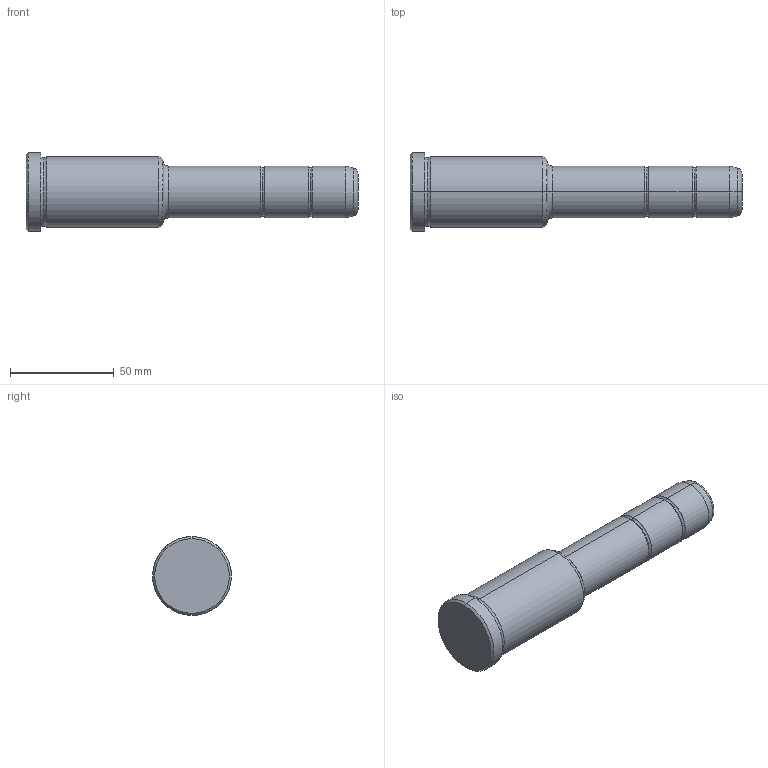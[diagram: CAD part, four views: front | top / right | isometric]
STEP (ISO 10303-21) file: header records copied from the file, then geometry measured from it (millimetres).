
FILE_DESCRIPTION(('CATIA V5 STEP Exchange'),'2;1');
FILE_NAME('C:\Users\Utente\Desktop\IO LAVORO\3D X SITO CF\X SITO\PLASTICA\351\351-25X66X160.stp','2021-09-07T10:08:16+00:00',('none'),('none'),'CATIA Version 5 Release 20 GA (IN-10)','CATIA V5 STEP AP203','none');
FILE_SCHEMA(('CONFIG_CONTROL_DESIGN'));
Length unit declared in the file: millimetre
Products named in the file (1): 351-25X66X160
Bounding box: 160 x 38 x 38 mm (x, y, z)
Volume: 106859.2 mm3; surface area: 16478.7 mm2
Topology: 1 solids, 1 shells, 36 faces, 102 edges, 70 vertices
Faces by surface type: torus 16, cylinder 10, cone 6, plane 4
Entity records: 1292 total; most frequent: CARTESIAN_POINT 321, ORIENTED_EDGE 204, DIRECTION 166, AXIS2_PLACEMENT_3D 115, EDGE_CURVE 102, CIRCLE 78, VERTEX_POINT 70, EDGE_LOOP 38
